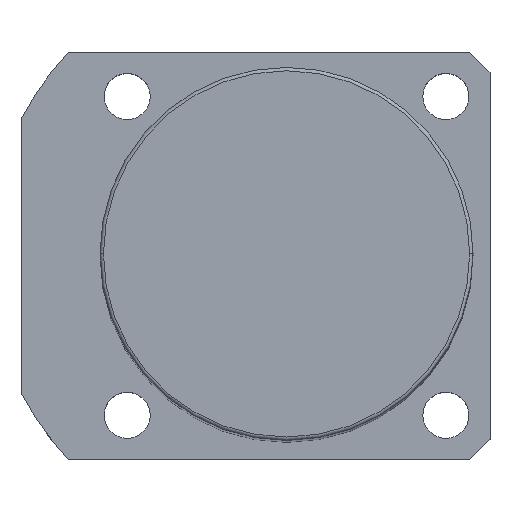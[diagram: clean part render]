
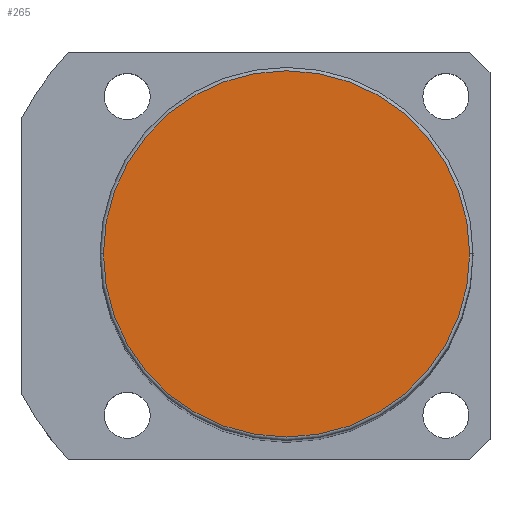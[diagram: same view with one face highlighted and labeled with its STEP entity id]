
A CAD part, top view. The second image highlights one B-rep face of the part: STEP entity #265.
In plain terms, the highlighted planar face has unit normal (0, 0, 1).
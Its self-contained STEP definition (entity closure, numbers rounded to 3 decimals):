
#12 = DIRECTION ( 'NONE',  ( 0., 0., 1. ) ) ;
#64 = DIRECTION ( 'NONE',  ( 0., 0., 1. ) ) ;
#164 = DIRECTION ( 'NONE',  ( 1., 0., 0. ) ) ;
#265 = ADVANCED_FACE ( 'NONE', ( #1707 ), #1512, .T. ) ;
#352 = DIRECTION ( 'NONE',  ( 1., 0., 0. ) ) ;
#392 = CIRCLE ( 'NONE', #680, 27. ) ;
#406 = VERTEX_POINT ( 'NONE', #670 ) ;
#557 = AXIS2_PLACEMENT_3D ( 'NONE', #1860, #64, #352 ) ;
#585 = CIRCLE ( 'NONE', #557, 27. ) ;
#670 = CARTESIAN_POINT ( 'NONE',  ( -27., 0., 176. ) ) ;
#680 = AXIS2_PLACEMENT_3D ( 'NONE', #1061, #760, #1666 ) ;
#692 = VERTEX_POINT ( 'NONE', #1829 ) ;
#760 = DIRECTION ( 'NONE',  ( 0., 0., 1. ) ) ;
#1061 = CARTESIAN_POINT ( 'NONE',  ( 0., 0., 176. ) ) ;
#1256 = ORIENTED_EDGE ( 'NONE', *, *, #1858, .T. ) ;
#1270 = EDGE_CURVE ( 'NONE', #692, #406, #585, .T. ) ;
#1459 = AXIS2_PLACEMENT_3D ( 'NONE', #1692, #12, #164 ) ;
#1501 = ORIENTED_EDGE ( 'NONE', *, *, #1270, .T. ) ;
#1512 = PLANE ( 'NONE',  #1459 ) ;
#1666 = DIRECTION ( 'NONE',  ( 1., 0., 0. ) ) ;
#1692 = CARTESIAN_POINT ( 'NONE',  ( 0., 0., 176. ) ) ;
#1707 = FACE_OUTER_BOUND ( 'NONE', #1774, .T. ) ;
#1774 = EDGE_LOOP ( 'NONE', ( #1501, #1256 ) ) ;
#1829 = CARTESIAN_POINT ( 'NONE',  ( 27., 0., 176. ) ) ;
#1858 = EDGE_CURVE ( 'NONE', #406, #692, #392, .T. ) ;
#1860 = CARTESIAN_POINT ( 'NONE',  ( 0., 0., 176. ) ) ;
